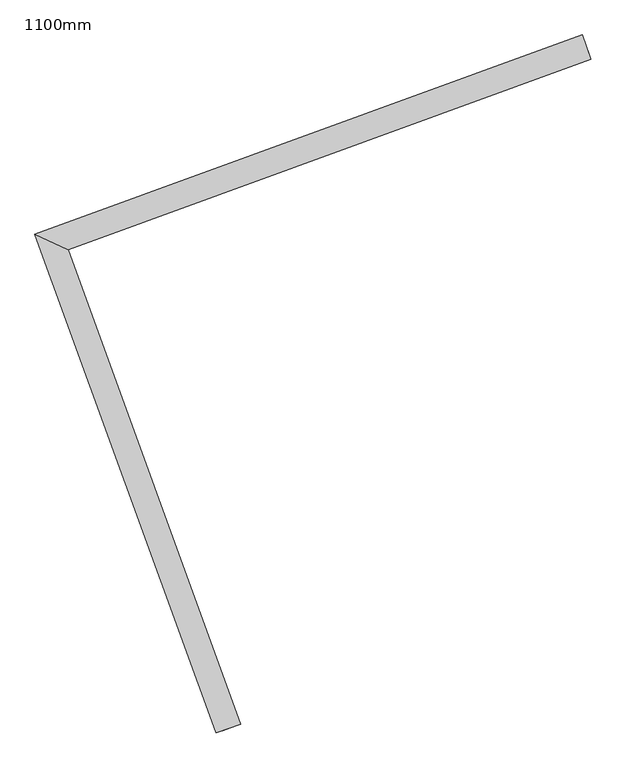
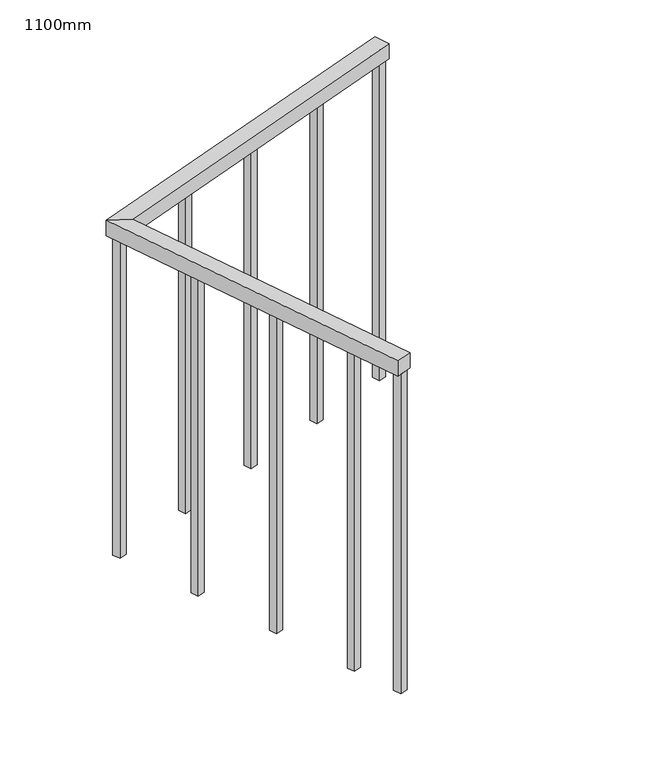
"""IFC4 building model written with IfcOpenShell, lengths in millimetres: railing geometry, 1100mm."""

from ifc_helpers import new_model, si_unit, frame, origin, place, context, project, spatial, polyline, outline, extrude, faceted_brep, source, transform, mapped, element, save


def railing_1100mm_767b1b28(model_context):
    return source(origin(), model_context, "Body", "SolidModel", [
        faceted_brep([(20391.6475185, 31617.1136263, 8600.0), (20391.6475185, 31617.1136263, 8550.0), (20374.5465113, 31664.0982574, 8550.0), (20374.5465113, 31664.0982574, 8600.0), (19317.3923129, 31279.3255961, 8600.0), (19381.4779511, 31249.4419722, 8600.0), (19317.3923129, 31279.3255961, 8550.0), (19714.8107828, 30333.617544, 8600.0), (19667.8261518, 30316.5165369, 8600.0), (19667.8261518, 30316.5165369, 8550.0), (19714.8107828, 30333.617544, 8550.0), (19381.4779511, 31249.4419722, 8550.0)], [[[0, 1, 2, 3]], [[0, 3, 4, 5]], [[3, 2, 6, 4]], [[7, 8, 9, 10]], [[5, 4, 8, 7]], [[4, 6, 9, 8]], [[2, 1, 11, 6]], [[1, 0, 5, 11]], [[6, 11, 10, 9]], [[11, 5, 7, 10]]]),
        extrude(outline(polyline([(19639.0726563, 30505.1587816), (19647.6231598, 30481.6664661), (19624.1308443, 30473.1159625), (19615.5803407, 30496.608278), (19639.0726563, 30505.1587816)])), frame((0.0, 0.0, 7500.0), z_axis=(0.0, 0.0, 1.0), x_axis=(1.0, 0.0, 0.0)), (0.0, 0.0, 1.0), 1050.0),
        extrude(outline(polyline([(19545.0171168, 30763.5742523), (19553.5676204, 30740.0819368), (19530.0753049, 30731.5314332), (19521.5248013, 30755.0237487), (19545.0171168, 30763.5742523)])), frame((0.0, 0.0, 7500.0), z_axis=(0.0, 0.0, 1.0), x_axis=(1.0, 0.0, 0.0)), (0.0, 0.0, 1.0), 1050.0),
        extrude(outline(polyline([(19450.9615774, 31021.989723), (19459.512081, 30998.4974075), (19436.0197655, 30989.9469039), (19427.4692619, 31013.4392194), (19450.9615774, 31021.989723)])), frame((0.0, 0.0, 7500.0), z_axis=(0.0, 0.0, 1.0), x_axis=(1.0, 0.0, 0.0)), (0.0, 0.0, 1.0), 1050.0),
        extrude(outline(polyline([(19623.8720123, 31350.9684176), (19600.3796968, 31342.417914), (19591.8291932, 31365.9102296), (19615.3215087, 31374.4607331), (19623.8720123, 31350.9684176)])), frame((0.0, 0.0, 7500.0), z_axis=(0.0, 0.0, 1.0), x_axis=(1.0, 0.0, 0.0)), (0.0, 0.0, 1.0), 1050.0),
        extrude(outline(polyline([(19882.287483, 31445.023957), (19858.7951675, 31436.4734535), (19850.2446639, 31459.965769), (19873.7369794, 31468.5162726), (19882.287483, 31445.023957)])), frame((0.0, 0.0, 7500.0), z_axis=(0.0, 0.0, 1.0), x_axis=(1.0, 0.0, 0.0)), (0.0, 0.0, 1.0), 1050.0),
        extrude(outline(polyline([(20140.7029537, 31539.0794965), (20117.2106382, 31530.5289929), (20108.6601346, 31554.0213084), (20132.1524502, 31562.571812), (20140.7029537, 31539.0794965)])), frame((0.0, 0.0, 7500.0), z_axis=(0.0, 0.0, 1.0), x_axis=(1.0, 0.0, 0.0)), (0.0, 0.0, 1.0), 1050.0),
        extrude(outline(polyline([(19365.4565416, 31256.9128782), (19341.9642261, 31248.3623746), (19333.4137225, 31271.8546901), (19356.906038, 31280.4051937), (19365.4565416, 31256.9128782)])), frame((0.0, 0.0, 7500.0), z_axis=(0.0, 0.0, 1.0), x_axis=(1.0, 0.0, 0.0)), (0.0, 0.0, 1.0), 1050.0),
        extrude(outline(polyline([(19694.5141215, 30352.8346077), (19703.0646251, 30329.3422922), (19679.5723095, 30320.7917886), (19671.021806, 30344.2841042), (19694.5141215, 30352.8346077)])), frame((0.0, 0.0, 7500.0), z_axis=(0.0, 0.0, 1.0), x_axis=(1.0, 0.0, 0.0)), (0.0, 0.0, 1.0), 1050.0),
        extrude(outline(polyline([(20387.3722667, 31628.8597841), (20363.8799512, 31620.3092805), (20355.3294476, 31643.801596), (20378.8217631, 31652.3520996), (20387.3722667, 31628.8597841)])), frame((0.0, 0.0, 7500.0), z_axis=(0.0, 0.0, 1.0), x_axis=(1.0, 0.0, 0.0)), (0.0, 0.0, 1.0), 1050.0),
    ])


if __name__ == "__main__":
    model = new_model("IFC4")
    model_context = context("Model", 3, world=origin())
    ifc_project = project(units=[si_unit("LENGTHUNIT", "METRE", prefix="MILLI")], contexts=[model_context])
    site = spatial("IfcSite", under=ifc_project)
    building = spatial("IfcBuilding", under=site)
    placement = place(None, origin())
    railing_1100mm_shape = railing_1100mm_767b1b28(model_context)
    element("IfcRailing", 1, ObjectType="1100mm", at=placement, inside=building, context=model_context, shape_type="MappedRepresentation", body=[
        mapped(railing_1100mm_shape, transform((0.0, 0.0, 0.0), x_axis=(1.0, 0.0, 0.0), y_axis=(0.0, 1.0, 0.0), z_axis=(0.0, 0.0, 1.0))),
    ])
    save(model, "model.ifc")
